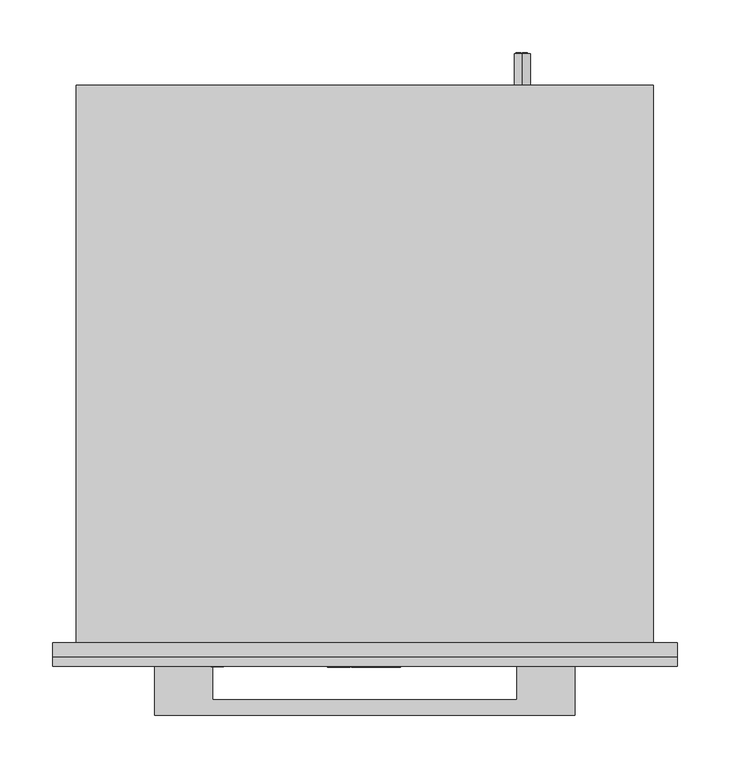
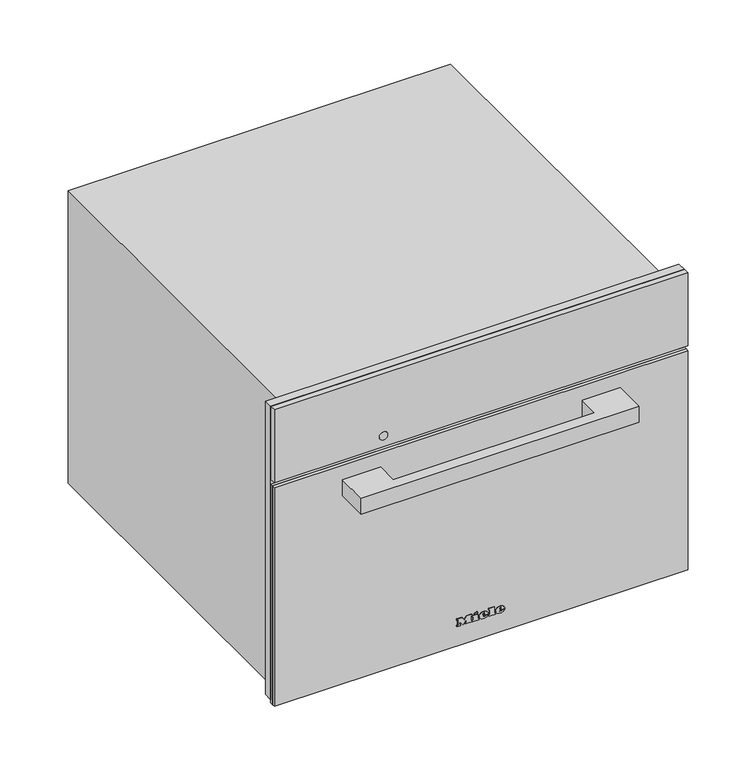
"""IFC4 building model written with IfcOpenShell, lengths in millimetres: proxy geometry, 11160140_CN_DGM7440C_GRGR : 23744034_CN_11160140_DGM7440C_GRGR."""

from ifc_helpers import new_model, si_unit, point, frame, frame_2d, origin, place, context, project, spatial, polyline, circle_curve, ellipse_curve, trimmed, segment, composite_curve, outline, extrude, faceted_brep, source, transform, mapped, element, save
from ifc_brep_helpers import plane_surface, cylinder_surface, revolved_surface, extruded_surface, advanced_brep


def specialty_equipment_33d3bdb7(model_context):
    return source(origin(), model_context, "Body", "SolidModel", [
        extrude(outline(polyline([(455.0, 297.5), (455.0, -297.5), (9.0, -297.5), (9.0, -272.5), (344.0, -272.5), (344.0, 272.5), (9.0, 272.5), (9.0, 297.5), (455.0, 297.5)])), frame((0.0, -13.0, 0.0), z_axis=(0.0, 1.0, 0.0), x_axis=(0.0, 0.0, 1.0)), (0.0, 0.0, 1.0), 13.0),
        advanced_brep(
        [(150.0, 561.0, 410.5), (150.0, 561.0, 395.5), (144.4098301, 561.0, 398.0), (148.5, 561.0, 398.0), (148.5, 561.0, 408.0), (147.4955303, 561.0, 408.0), (147.4955303, 561.0, 399.0), (144.0315043, 561.0, 399.0), (144.0315043, 561.0, 398.4582978), (155.0, 561.0, 398.0), (155.0, 561.0, 408.0), (150.0, 561.0, 408.0), (150.0, 561.0, 407.0), (154.0, 561.0, 407.0), (154.0, 561.0, 403.5), (151.0, 561.0, 403.5), (151.0, 561.0, 402.5), (154.0, 561.0, 402.5), (154.0, 561.0, 399.0), (150.0, 561.0, 399.0), (150.0, 561.0, 398.0), (150.0, 531.0, 395.5), (150.0, 531.0, 410.5), (155.0, 562.0, 408.0), (155.0, 562.0, 398.0), (150.0, 562.0, 398.0), (150.0, 562.0, 399.0), (154.0, 562.0, 399.0), (154.0, 562.0, 402.5), (151.0, 562.0, 402.5), (151.0, 562.0, 403.5), (154.0, 562.0, 403.5), (154.0, 562.0, 407.0), (150.0, 562.0, 407.0), (150.0, 562.0, 408.0), (148.5, 562.0, 398.0), (144.0315043, 562.0, 398.0), (144.0315043, 562.0, 399.0), (147.4955303, 562.0, 399.0), (147.4955303, 562.0, 408.0), (148.5, 562.0, 408.0), (144.0315043, 561.0, 398.0)],
        [
            (0, 1, circle_curve(frame((150.0, 561.0, 403.0), z_axis=(0.0, 1.0, 0.0), x_axis=(0.0, 0.0, 1.0)), 7.5)),
            (1, 2, circle_curve(frame((150.0, 561.0, 403.0), z_axis=(0.0, 1.0, 0.0), x_axis=(0.0, 0.0, 1.0)), 7.5)),
            (2, 3),
            (3, 4),
            (4, 5),
            (5, 6),
            (6, 7),
            (7, 8),
            (8, 0, circle_curve(frame((150.0, 561.0, 403.0), z_axis=(0.0, 1.0, 0.0), x_axis=(0.0, 0.0, 1.0)), 7.5)),
            (9, 10),
            (10, 11),
            (11, 12),
            (12, 13),
            (13, 14),
            (14, 15),
            (15, 16),
            (16, 17),
            (17, 18),
            (18, 19),
            (19, 20),
            (20, 9),
            (21, 22, circle_curve(frame((150.0, 531.0, 403.0), z_axis=(0.0, -1.0, 0.0), x_axis=(0.0, 0.0, 1.0)), 7.5)),
            (22, 21, circle_curve(frame((150.0, 531.0, 403.0), z_axis=(0.0, -1.0, 0.0), x_axis=(0.0, 0.0, 1.0)), 7.5)),
            (0, 22),
            (21, 1),
            (8, 2, circle_curve(frame((150.0, 561.0, 403.0), z_axis=(0.0, -1.0, 0.0), x_axis=(0.0, 0.0, 1.0)), 7.5)),
            (23, 24),
            (24, 25),
            (25, 26),
            (26, 27),
            (27, 28),
            (28, 29),
            (29, 30),
            (30, 31),
            (31, 32),
            (32, 33),
            (33, 34),
            (34, 23),
            (35, 36),
            (36, 37),
            (37, 38),
            (38, 39),
            (39, 40),
            (40, 35),
            (8, 41),
            (41, 2),
            (23, 10),
            (9, 24),
            (20, 25),
            (19, 26),
            (18, 27),
            (17, 28),
            (16, 29),
            (15, 30),
            (14, 31),
            (13, 32),
            (12, 33),
            (11, 34),
            (35, 3),
            (41, 36),
            (7, 37),
            (6, 38),
            (5, 39),
            (4, 40),
        ],
        [
            plane_surface(frame((150.0, 561.0, 410.5), z_axis=(0.0, 1.0, 0.0), x_axis=(1.0, 0.0, 0.0))),
            plane_surface(frame((150.0, 531.0, 410.5), z_axis=(0.0, -1.0, 0.0), x_axis=(-1.0, 0.0, 0.0))),
            cylinder_surface(frame((150.0, 561.0, 403.0), z_axis=(0.0, -1.0, 0.0), x_axis=(0.0, 0.0, 1.0)), 7.5),
            plane_surface(frame((155.0, 562.0, 408.0), z_axis=(0.0, 1.0, 0.0), x_axis=(0.0, 0.0, -1.0))),
            plane_surface(frame((155.0, 561.0, 408.0), z_axis=(0.0, -1.0, 0.0), x_axis=(0.0, 0.0, 1.0))),
            plane_surface(frame((155.0, 562.0, 408.0), z_axis=(1.0, 0.0, 0.0), x_axis=(0.0, -1.0, 0.0))),
            plane_surface(frame((155.0, 562.0, 398.0), z_axis=(0.0, 0.0, -1.0), x_axis=(0.0, -1.0, 0.0))),
            plane_surface(frame((150.0, 562.0, 398.0), z_axis=(-1.0, 0.0, 0.0), x_axis=(0.0, -1.0, 0.0))),
            plane_surface(frame((150.0, 562.0, 399.0), z_axis=(0.0, 0.0, 1.0), x_axis=(0.0, -1.0, 0.0))),
            plane_surface(frame((154.0, 562.0, 399.0), z_axis=(-1.0, 0.0, 0.0), x_axis=(0.0, -1.0, 0.0))),
            plane_surface(frame((154.0, 562.0, 402.5), z_axis=(0.0, 0.0, -1.0), x_axis=(0.0, -1.0, 0.0))),
            plane_surface(frame((151.0, 562.0, 402.5), z_axis=(-1.0, 0.0, 0.0), x_axis=(0.0, -1.0, 0.0))),
            plane_surface(frame((151.0, 562.0, 403.5), z_axis=(0.0, 0.0, 1.0), x_axis=(0.0, -1.0, 0.0))),
            plane_surface(frame((154.0, 562.0, 403.5), z_axis=(-1.0, 0.0, 0.0), x_axis=(0.0, -1.0, 0.0))),
            plane_surface(frame((154.0, 562.0, 407.0), z_axis=(0.0, 0.0, -1.0), x_axis=(0.0, -1.0, 0.0))),
            plane_surface(frame((150.0, 562.0, 407.0), z_axis=(-1.0, 0.0, 0.0), x_axis=(0.0, -1.0, 0.0))),
            plane_surface(frame((150.0, 562.0, 408.0), z_axis=(0.0, 0.0, 1.0), x_axis=(0.0, -1.0, 0.0))),
            plane_surface(frame((148.5, 562.0, 398.0), z_axis=(0.0, 0.0, -1.0), x_axis=(0.0, -1.0, 0.0))),
            plane_surface(frame((144.0315043, 562.0, 398.0), z_axis=(-1.0, 0.0, 0.0), x_axis=(0.0, -1.0, 0.0))),
            plane_surface(frame((144.0315043, 562.0, 399.0), z_axis=(0.0, 0.0, 1.0), x_axis=(0.0, -1.0, 0.0))),
            plane_surface(frame((147.4955303, 562.0, 399.0), z_axis=(-1.0, 0.0, 0.0), x_axis=(0.0, -1.0, 0.0))),
            plane_surface(frame((147.4955303, 562.0, 408.0), z_axis=(0.0, 0.0, 1.0), x_axis=(0.0, -1.0, 0.0))),
            plane_surface(frame((148.5, 562.0, 408.0), z_axis=(1.0, 0.0, 0.0), x_axis=(0.0, -1.0, 0.0))),
        ],
        [
            (0, [[1, 2, 3, 4, 5, 6, 7, 8, 9], [10, 11, 12, 13, 14, 15, 16, 17, 18, 19, 20, 21]]),
            (1, [[22, 23]]),
            (2, [[-1, 24, -22, 25]]),
            (2, [[-23, -24, -9, 26, -2, -25]]),
            (3, [[27, 28, 29, 30, 31, 32, 33, 34, 35, 36, 37, 38]]),
            (3, [[39, 40, 41, 42, 43, 44]]),
            (4, [[45, 46, -26]]),
            (5, [[-27, 47, -10, 48]]),
            (6, [[-28, -48, -21, 49]]),
            (7, [[-29, -49, -20, 50]]),
            (8, [[-30, -50, -19, 51]]),
            (9, [[-31, -51, -18, 52]]),
            (10, [[-32, -52, -17, 53]]),
            (11, [[-33, -53, -16, 54]]),
            (12, [[-34, -54, -15, 55]]),
            (13, [[-35, -55, -14, 56]]),
            (14, [[-36, -56, -13, 57]]),
            (15, [[-37, -57, -12, 58]]),
            (16, [[-38, -58, -11, -47]]),
            (17, [[-39, 59, -3, -46, 60]]),
            (18, [[-40, -60, -45, -8, 61]]),
            (19, [[-41, -61, -7, 62]]),
            (20, [[-42, -62, -6, 63]]),
            (21, [[-43, -63, -5, 64]]),
            (22, [[-44, -64, -4, -59]]),
        ],
    ),
        faceted_brep([(275.0, 531.0, 445.0), (275.0, 531.0, 0.0), (-275.0, 531.0, 0.0), (-275.0, 531.0, 445.0), (275.0, 0.0, 445.0), (-275.0, 0.0, 445.0), (-275.0, 0.0, 0.0), (275.0, 0.0, 0.0), (-272.5, 0.0, 344.0), (272.5, 0.0, 344.0), (272.5, 0.0, 8.0), (-272.5, 0.0, 8.0), (272.5, 12.0, 344.0), (-272.5, 12.0, 344.0), (-272.5, 12.0, 8.0), (272.5, 12.0, 8.0), (161.0, 12.0, 286.0), (161.0, 12.0, 58.0), (-220.0, 12.0, 58.0), (-220.0, 12.0, 286.0), (161.0, 419.0, 286.0), (-220.0, 419.0, 286.0), (-220.0, 419.0, 58.0), (161.0, 419.0, 58.0)], [[[0, 1, 2, 3]], [[4, 5, 6, 7], [8, 9, 10, 11]], [[0, 3, 5, 4]], [[3, 2, 6, 5]], [[2, 1, 7, 6]], [[1, 0, 4, 7]], [[12, 13, 14, 15], [16, 17, 18, 19]], [[13, 12, 9, 8]], [[14, 13, 8, 11]], [[15, 14, 11, 10]], [[12, 15, 10, 9]], [[20, 21, 22, 23]], [[20, 23, 17, 16]], [[23, 22, 18, 17]], [[22, 21, 19, 18]], [[21, 20, 16, 19]]]),
        advanced_brep(
        [(26.2998, -23.0, 36.7018), (26.2998, -23.0, 37.8532), (33.9264, -23.0, 37.8532), (20.6568, -23.0, 37.8532), (23.7918, -23.0, 34.0), (33.7326, -23.0, 36.7018), (30.2898, -23.0, 36.7018), (27.5766, -23.0, 35.425), (26.2998, -23.0, 39.3124), (26.2998, -23.0, 40.555), (28.2492, -23.0, 40.555), (28.2492, -23.0, 39.3124), (26.2998, -22.0, 36.7018), (27.5766, -22.0, 35.425), (30.2898, -22.0, 36.7018), (33.7326, -22.0, 36.7018), (23.7918, -22.0, 34.0), (20.6568, -22.0, 37.8532), (33.9264, -22.0, 37.8532), (26.2998, -22.0, 37.8532), (26.2998, -22.0, 39.3124), (28.2492, -22.0, 39.3124), (28.2492, -22.0, 40.555), (26.2998, -22.0, 40.555)],
        [
            (0, 1),
            (1, 2),
            (2, 3, ellipse_curve(frame((27.2916, -23.0, 37.8532), z_axis=(0.0, -1.0, 0.0), x_axis=(-1.0, 0.0, 0.0)), 6.6348, 5.4834)),
            (3, 4, circle_curve(frame((25.0686622, -23.0, 38.2408), z_axis=(0.0, -1.0, 0.0), x_axis=(0.0, 0.0, -1.0)), 4.4288556)),
            (4, 5, circle_curve(frame((27.1587808, -23.0, 41.2504), z_axis=(0.0, -1.0, 0.0), x_axis=(0.0, 0.0, -1.0)), 7.9940516)),
            (5, 6),
            (6, 7, circle_curve(frame((28.1338588, -23.0, 37.762), z_axis=(0.0, 1.0, 0.0), x_axis=(0.0, 0.0, -1.0)), 2.4025208)),
            (7, 0, circle_curve(frame((27.5766, -23.0, 36.7018), z_axis=(0.0, 1.0, 0.0), x_axis=(0.0, 0.0, -1.0)), 1.2768)),
            (8, 9),
            (9, 10, circle_curve(frame((27.2745, -23.0, 40.555), z_axis=(0.0, 1.0, 0.0), x_axis=(0.0, 0.0, -1.0)), 0.9747)),
            (10, 11),
            (11, 8),
            (12, 13, circle_curve(frame((27.5766, -22.0, 36.7018), z_axis=(0.0, -1.0, 0.0), x_axis=(0.0, 0.0, -1.0)), 1.2768)),
            (13, 14, circle_curve(frame((28.1338588, -22.0, 37.762), z_axis=(0.0, -1.0, 0.0), x_axis=(0.0, 0.0, -1.0)), 2.4025208)),
            (14, 15),
            (15, 16, circle_curve(frame((27.1587808, -22.0, 41.2504), z_axis=(0.0, 1.0, 0.0), x_axis=(0.0, 0.0, -1.0)), 7.9940516)),
            (16, 17, circle_curve(frame((25.0686622, -22.0, 38.2408), z_axis=(0.0, 1.0, 0.0), x_axis=(0.0, 0.0, -1.0)), 4.4288556)),
            (17, 18, ellipse_curve(frame((27.2916, -22.0, 37.8532), z_axis=(0.0, 1.0, 0.0), x_axis=(-1.0, 0.0, 0.0)), 6.6348, 5.4834)),
            (18, 19),
            (19, 12),
            (20, 21),
            (21, 22),
            (22, 23, circle_curve(frame((27.2745, -22.0, 40.555), z_axis=(0.0, -1.0, 0.0), x_axis=(0.0, 0.0, -1.0)), 0.9747)),
            (23, 20),
            (0, 12),
            (19, 1),
            (18, 2),
            (5, 15),
            (14, 6),
            (17, 3),
            (13, 7),
            (16, 4),
            (8, 20),
            (23, 9),
            (22, 10),
            (21, 11),
        ],
        [
            plane_surface(frame((26.2998, -23.0, 37.8532), z_axis=(0.0, -1.0, 0.0), x_axis=(0.0, 0.0, 1.0))),
            plane_surface(frame((26.2998, -22.0, 37.8532), z_axis=(0.0, 1.0, 0.0), x_axis=(0.0, 0.0, -1.0))),
            plane_surface(frame((26.2998, -23.0, 36.7018), z_axis=(1.0, 0.0, 0.0), x_axis=(0.0, 1.0, 0.0))),
            plane_surface(frame((26.2998, -23.0, 37.8532), z_axis=(0.0, 0.0, -1.0), x_axis=(0.0, 1.0, 0.0))),
            plane_surface(frame((33.7326, -23.0, 36.7018), z_axis=(0.0, 0.0, 1.0), x_axis=(0.0, 1.0, 0.0))),
            extruded_surface(trimmed(ellipse_curve(frame((27.2916, -21.0, 37.8532), z_axis=(0.0, -1.0, 0.0), x_axis=(-1.0, 0.0, 0.0)), 6.6348, 5.4834), [point((33.9264, -21.0, 37.8532))], [point((20.6568, -21.0, 37.8532))], True, "CARTESIAN"), (0.0, -1.0, 0.0), 1.0),
            revolved_surface(polyline([(28.1338588, -22.0, 35.3594792), (28.1338588, -23.0, 35.3594792)]), (28.1338588, -22.0, 37.762), (0.0, 1.0, 0.0)),
            revolved_surface(polyline([(27.5766, -22.0, 35.425), (27.5766, -23.0, 35.425)]), (27.5766, -22.0, 36.7018), (0.0, 1.0, 0.0)),
            cylinder_surface(frame((25.0686622, -22.0, 38.2408), z_axis=(0.0, -1.0, 0.0), x_axis=(0.0, 0.0, -1.0)), 4.4288556),
            cylinder_surface(frame((27.1587808, -22.0, 41.2504), z_axis=(0.0, -1.0, 0.0), x_axis=(0.0, 0.0, -1.0)), 7.9940516),
            plane_surface(frame((26.2998, -23.0, 39.3124), z_axis=(1.0, 0.0, 0.0), x_axis=(0.0, 1.0, 0.0))),
            revolved_surface(polyline([(27.2745, -22.0, 39.5803), (27.2745, -23.0, 39.5803)]), (27.2745, -22.0, 40.555), (0.0, 1.0, 0.0)),
            plane_surface(frame((28.2492, -23.0, 40.555), z_axis=(-1.0, 0.0, 0.0), x_axis=(0.0, 1.0, 0.0))),
            plane_surface(frame((28.2492, -23.0, 39.3124), z_axis=(0.0, 0.0, 1.0), x_axis=(0.0, 1.0, 0.0))),
        ],
        [
            (0, [[1, 2, 3, 4, 5, 6, 7, 8], [9, 10, 11, 12]]),
            (1, [[13, 14, 15, 16, 17, 18, 19, 20], [21, 22, 23, 24]]),
            (2, [[-1, 25, -20, 26]]),
            (3, [[-2, -26, -19, 27]]),
            (4, [[-6, 28, -15, 29]]),
            (5, [[-3, -27, -18, 30]]),
            (6, [[-7, -29, -14, 31]]),
            (7, [[-8, -31, -13, -25]]),
            (8, [[-4, -30, -17, 32]]),
            (9, [[-5, -32, -16, -28]]),
            (10, [[-9, 33, -24, 34]]),
            (11, [[-10, -34, -23, 35]]),
            (12, [[-11, -35, -22, 36]]),
            (13, [[-12, -36, -21, -33]]),
        ],
    ),
        advanced_brep(
        [(2.508, -23.0, 36.7018), (2.508, -23.0, 37.8532), (10.1346, -23.0, 37.8532), (-3.135, -23.0, 37.8532), (0.0, -23.0, 34.0), (9.9408, -23.0, 36.7018), (6.498, -23.0, 36.7018), (3.7848, -23.0, 35.425), (2.508, -23.0, 39.3124), (2.508, -23.0, 40.555), (4.4574, -23.0, 40.555), (4.4574, -23.0, 39.3124), (2.508, -22.0, 36.7018), (3.7848, -22.0, 35.425), (6.498, -22.0, 36.7018), (9.9408, -22.0, 36.7018), (0.0, -22.0, 34.0), (-3.135, -22.0, 37.8532), (10.1346, -22.0, 37.8532), (2.508, -22.0, 37.8532), (2.508, -22.0, 39.3124), (4.4574, -22.0, 39.3124), (4.4574, -22.0, 40.555), (2.508, -22.0, 40.555)],
        [
            (0, 1),
            (1, 2),
            (2, 3, ellipse_curve(frame((3.4998, -23.0, 37.8532), z_axis=(0.0, -1.0, 0.0), x_axis=(-1.0, 0.0, 0.0)), 6.6348, 5.4834)),
            (3, 4, circle_curve(frame((1.2768622, -23.0, 38.2408), z_axis=(0.0, -1.0, 0.0), x_axis=(0.0, 0.0, -1.0)), 4.4288556)),
            (4, 5, circle_curve(frame((3.3669808, -23.0, 41.2504), z_axis=(0.0, -1.0, 0.0), x_axis=(0.0, 0.0, -1.0)), 7.9940516)),
            (5, 6),
            (6, 7, circle_curve(frame((4.3420588, -23.0, 37.762), z_axis=(0.0, 1.0, 0.0), x_axis=(0.0, 0.0, -1.0)), 2.4025208)),
            (7, 0, circle_curve(frame((3.7848, -23.0, 36.7018), z_axis=(0.0, 1.0, 0.0), x_axis=(0.0, 0.0, -1.0)), 1.2768)),
            (8, 9),
            (9, 10, circle_curve(frame((3.4827, -23.0, 40.555), z_axis=(0.0, 1.0, 0.0), x_axis=(0.0, 0.0, -1.0)), 0.9747)),
            (10, 11),
            (11, 8),
            (12, 13, circle_curve(frame((3.7848, -22.0, 36.7018), z_axis=(0.0, -1.0, 0.0), x_axis=(0.0, 0.0, -1.0)), 1.2768)),
            (13, 14, circle_curve(frame((4.3420588, -22.0, 37.762), z_axis=(0.0, -1.0, 0.0), x_axis=(0.0, 0.0, -1.0)), 2.4025208)),
            (14, 15),
            (15, 16, circle_curve(frame((3.3669808, -22.0, 41.2504), z_axis=(0.0, 1.0, 0.0), x_axis=(0.0, 0.0, -1.0)), 7.9940516)),
            (16, 17, circle_curve(frame((1.2768622, -22.0, 38.2408), z_axis=(0.0, 1.0, 0.0), x_axis=(0.0, 0.0, -1.0)), 4.4288556)),
            (17, 18, ellipse_curve(frame((3.4998, -22.0, 37.8532), z_axis=(0.0, 1.0, 0.0), x_axis=(-1.0, 0.0, 0.0)), 6.6348, 5.4834)),
            (18, 19),
            (19, 12),
            (20, 21),
            (21, 22),
            (22, 23, circle_curve(frame((3.4827, -22.0, 40.555), z_axis=(0.0, -1.0, 0.0), x_axis=(0.0, 0.0, -1.0)), 0.9747)),
            (23, 20),
            (0, 12),
            (19, 1),
            (18, 2),
            (5, 15),
            (14, 6),
            (17, 3),
            (13, 7),
            (16, 4),
            (8, 20),
            (23, 9),
            (22, 10),
            (21, 11),
        ],
        [
            plane_surface(frame((2.508, -23.0, 37.8532), z_axis=(0.0, -1.0, 0.0), x_axis=(0.0, 0.0, 1.0))),
            plane_surface(frame((2.508, -22.0, 37.8532), z_axis=(0.0, 1.0, 0.0), x_axis=(0.0, 0.0, -1.0))),
            plane_surface(frame((2.508, -23.0, 36.7018), z_axis=(1.0, 0.0, 0.0), x_axis=(0.0, 1.0, 0.0))),
            plane_surface(frame((2.508, -23.0, 37.8532), z_axis=(0.0, 0.0, -1.0), x_axis=(0.0, 1.0, 0.0))),
            plane_surface(frame((9.9408, -23.0, 36.7018), z_axis=(0.0, 0.0, 1.0), x_axis=(0.0, 1.0, 0.0))),
            extruded_surface(trimmed(ellipse_curve(frame((3.4998, -21.0, 37.8532), z_axis=(0.0, -1.0, 0.0), x_axis=(-1.0, 0.0, 0.0)), 6.6348, 5.4834), [point((10.1346, -21.0, 37.8532))], [point((-3.135, -21.0, 37.8532))], True, "CARTESIAN"), (0.0, -1.0, 0.0), 1.0),
            revolved_surface(polyline([(4.3420588, -22.0, 35.3594792), (4.3420588, -23.0, 35.3594792)]), (4.3420588, -22.0, 37.762), (0.0, 1.0, 0.0)),
            revolved_surface(polyline([(3.7848, -22.0, 35.425), (3.7848, -23.0, 35.425)]), (3.7848, -22.0, 36.7018), (0.0, 1.0, 0.0)),
            cylinder_surface(frame((1.2768622, -22.0, 38.2408), z_axis=(0.0, -1.0, 0.0), x_axis=(0.0, 0.0, -1.0)), 4.4288556),
            cylinder_surface(frame((3.3669808, -22.0, 41.2504), z_axis=(0.0, -1.0, 0.0), x_axis=(0.0, 0.0, -1.0)), 7.9940516),
            plane_surface(frame((2.508, -23.0, 39.3124), z_axis=(1.0, 0.0, 0.0), x_axis=(0.0, 1.0, 0.0))),
            revolved_surface(polyline([(3.4827, -22.0, 39.5803), (3.4827, -23.0, 39.5803)]), (3.4827, -22.0, 40.555), (0.0, 1.0, 0.0)),
            plane_surface(frame((4.4574, -23.0, 40.555), z_axis=(-1.0, 0.0, 0.0), x_axis=(0.0, 1.0, 0.0))),
            plane_surface(frame((4.4574, -23.0, 39.3124), z_axis=(0.0, 0.0, 1.0), x_axis=(0.0, 1.0, 0.0))),
        ],
        [
            (0, [[1, 2, 3, 4, 5, 6, 7, 8], [9, 10, 11, 12]]),
            (1, [[13, 14, 15, 16, 17, 18, 19, 20], [21, 22, 23, 24]]),
            (2, [[-1, 25, -20, 26]]),
            (3, [[-2, -26, -19, 27]]),
            (4, [[-6, 28, -15, 29]]),
            (5, [[-3, -27, -18, 30]]),
            (6, [[-7, -29, -14, 31]]),
            (7, [[-8, -31, -13, -25]]),
            (8, [[-4, -30, -17, 32]]),
            (9, [[-5, -32, -16, -28]]),
            (10, [[-9, 33, -24, 34]]),
            (11, [[-10, -34, -23, 35]]),
            (12, [[-11, -35, -22, 36]]),
            (13, [[-12, -36, -21, -33]]),
        ],
    ),
        extrude(outline(polyline([(44.7274, -9.9522), (42.8806, -9.0858), (44.6818, -5.2212), (46.5286, -6.0762), (44.7274, -9.9522)])), frame((0.0, -23.0, 0.0), z_axis=(0.0, 1.0, 0.0), x_axis=(0.0, 0.0, 1.0)), (0.0, 0.0, 1.0), 1.0),
        extrude(outline(polyline([(42.6298, -12.768), (40.5892, -12.768), (40.5892, -11.4114), (35.9152, -11.4114), (35.9152, -12.768), (34.0, -12.768), (34.0, -3.7734), (35.9152, -3.7734), (35.9152, -5.0958), (42.6298, -5.0958), (42.6298, -12.768)])), frame((0.0, -23.0, 0.0), z_axis=(0.0, 1.0, 0.0), x_axis=(0.0, 0.0, 1.0)), (0.0, 0.0, 1.0), 1.0),
        extrude(outline(polyline([(43.5418, 10.773), (43.5418, 12.141), (35.9152, 12.141), (35.9152, 10.773), (34.0, 10.773), (34.0, 20.0184), (35.9152, 20.0184), (35.9152, 18.6162), (45.4, 18.6162), (45.4, 10.773), (43.5418, 10.773)])), frame((0.0, -23.0, 0.0), z_axis=(0.0, 1.0, 0.0), x_axis=(0.0, 0.0, 1.0)), (0.0, 0.0, 1.0), 1.0),
        extrude(outline(polyline([(43.5418, -35.4882), (43.5418, -34.1088), (35.9152, -34.1088), (35.9152, -35.4882), (34.0, -35.4882), (34.0, -30.4722), (35.9152, -30.4722), (35.9152, -31.8402), (40.7429247, -31.8402), (34.0, -26.7444), (40.9402223, -21.6258), (35.9152, -21.6258), (35.9152, -23.028), (34.0, -23.028), (34.0, -13.9308), (35.9152, -13.9308), (35.9152, -15.3786), (43.5418, -15.3786), (43.5418, -13.9308), (45.4, -13.9308), (45.4, -20.8734), (41.125, -24.2022), (45.4, -27.5424), (45.4, -35.4882), (43.5418, -35.4882)])), frame((0.0, -23.0, 0.0), z_axis=(0.0, 1.0, 0.0), x_axis=(0.0, 0.0, 1.0)), (0.0, 0.0, 1.0), 1.0),
        extrude(outline(polyline([(297.5, -22.0), (-297.5, -22.0), (-297.5, -13.0), (297.5, -13.0), (297.5, -22.0)])), frame((0.0, 0.0, 344.0), z_axis=(0.0, 0.0, 1.0), x_axis=(1.0, 0.0, 0.0)), (0.0, 0.0, 1.0), 111.0),
        extrude(outline(composite_curve([segment(trimmed(circle_curve(frame_2d((361.0, -140.5745637)), 6.0), [point((361.0, -146.5745637))], [point((361.0, -134.5745637))], False, "CARTESIAN"), True, "CONTINUOUS"), segment(trimmed(circle_curve(frame_2d((361.0, -140.5745637)), 6.0), [point((361.0, -134.5745637))], [point((361.0, -146.5745637))], False, "CARTESIAN"), True, "CONTINUOUS")], self_intersect=False)), frame((0.0, -22.5, 0.0), z_axis=(0.0, 1.0, 0.0), x_axis=(0.0, 0.0, 1.0)), (0.0, 0.0, 1.0), 1.0),
        extrude(outline(polyline([(-297.5, -18.0), (297.5, -18.0), (297.5, -22.0), (-297.5, -22.0), (-297.5, -18.0)])), frame((0.0, 0.0, 4.0), z_axis=(0.0, 0.0, 1.0), x_axis=(1.0, 0.0, 0.0)), (0.0, 0.0, 1.0), 333.0),
        extrude(outline(polyline([(297.5, -18.0), (-297.5, -18.0), (-297.5, -13.0), (297.5, -13.0), (297.5, -18.0)])), frame((0.0, 0.0, 4.0), z_axis=(0.0, 0.0, 1.0), x_axis=(1.0, 0.0, 0.0)), (0.0, 0.0, 1.0), 333.0),
        extrude(outline(polyline([(-200.0, -69.0), (-200.0, -22.0), (-145.0, -22.0), (-145.0, -54.0), (145.0, -54.0), (145.0, -22.0), (200.0, -22.0), (200.0, -69.0), (-200.0, -69.0)])), frame((0.0, 0.0, 291.0), z_axis=(0.0, 0.0, 1.0), x_axis=(1.0, 0.0, 0.0)), (0.0, 0.0, 1.0), 24.0),
    ])


if __name__ == "__main__":
    model = new_model("IFC4")
    model_context = context("Model", 3, world=origin())
    ifc_project = project(units=[si_unit("LENGTHUNIT", "METRE", prefix="MILLI")], contexts=[model_context])
    site = spatial("IfcSite", under=ifc_project)
    building = spatial("IfcBuilding", under=site)
    placement = place(None, origin())
    specialty_equipment_shape = specialty_equipment_33d3bdb7(model_context)
    element("IfcBuildingElementProxy", 1, Name="11160140_CN_DGM7440C_GRGR : 23744034_CN_11160140_DGM7440C_GRGR", ObjectType="11160140_CN_DGM7440C_GRGR : 23744034_CN_11160140_DGM7440C_GRGR", at=placement, inside=building, context=model_context, shape_type="MappedRepresentation", body=[
        mapped(specialty_equipment_shape, transform((0.0, 0.0, 0.0), x_axis=(1.0, 0.0, 0.0), y_axis=(0.0, 1.0, 0.0), z_axis=(0.0, 0.0, 1.0))),
    ])
    save(model, "model.ifc")
